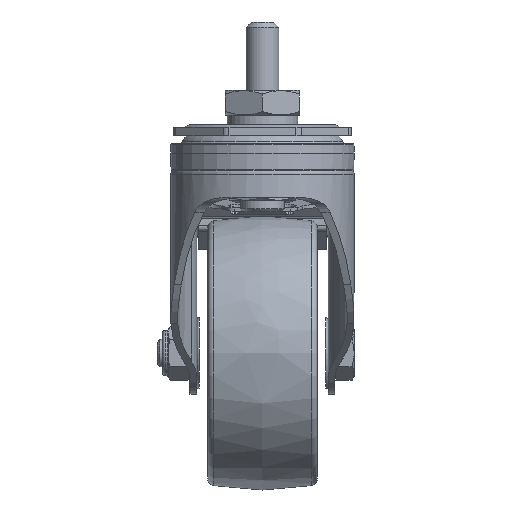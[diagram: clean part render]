
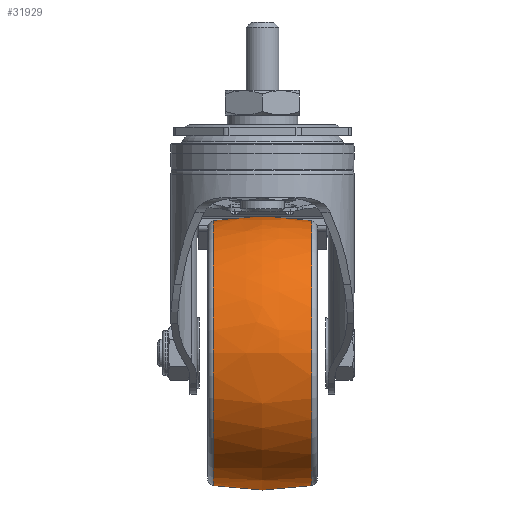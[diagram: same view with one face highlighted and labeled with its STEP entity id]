
A CAD part, left-side view. The second image highlights one B-rep face of the part: STEP entity #31929.
In plain terms, the highlighted free-form (B-spline) face has degree [2, 2] with [3, 9] control points.
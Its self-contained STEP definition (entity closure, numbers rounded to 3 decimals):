
#25=(
BOUNDED_SURFACE()
B_SPLINE_SURFACE(2,2,((#56491,#56492,#56493,#56494,#56495,#56496,#56497,
#56498,#56499),(#56500,#56501,#56502,#56503,#56504,#56505,#56506,#56507,
#56508),(#56509,#56510,#56511,#56512,#56513,#56514,#56515,#56516,#56517)),
 .UNSPECIFIED.,.F.,.T.,.F.)
B_SPLINE_SURFACE_WITH_KNOTS((3,3),(3,2,2,2,3),(-0.18,0.18),
(-3.142,-1.571,0.,1.571,3.142),
 .UNSPECIFIED.)
GEOMETRIC_REPRESENTATION_ITEM()
RATIONAL_B_SPLINE_SURFACE(((1.,0.707,1.,0.707,1.,
0.707,1.,0.707,1.),(0.984,0.696,
0.984,0.696,0.984,0.696,
0.984,0.696,0.984),(1.,0.707,
1.,0.707,1.,0.707,1.,0.707,1.)))
REPRESENTATION_ITEM('')
SURFACE()
);
#4645=FACE_OUTER_BOUND('',#6551,.T.);
#6551=EDGE_LOOP('',(#29893,#29894,#29895,#29896));
#12835=CIRCLE('',#33882,48.376);
#12837=CIRCLE('',#33884,48.376);
#12838=CIRCLE('',#33885,100.);
#15865=VERTEX_POINT('',#56488);
#15866=VERTEX_POINT('',#56518);
#20541=EDGE_CURVE('',#15865,#15865,#12835,.T.);
#20543=EDGE_CURVE('',#15866,#15866,#12837,.T.);
#20544=EDGE_CURVE('',#15866,#15865,#12838,.T.);
#29893=ORIENTED_EDGE('',*,*,#20543,.F.);
#29894=ORIENTED_EDGE('',*,*,#20544,.T.);
#29895=ORIENTED_EDGE('',*,*,#20541,.T.);
#29896=ORIENTED_EDGE('',*,*,#20544,.F.);
#31929=ADVANCED_FACE('',(#4645),#25,.F.);
#33882=AXIS2_PLACEMENT_3D('',#56489,#40582,#40583);
#33884=AXIS2_PLACEMENT_3D('',#56519,#40586,#40587);
#33885=AXIS2_PLACEMENT_3D('',#56520,#40588,#40589);
#40582=DIRECTION('center_axis',(0.,-1.,0.));
#40583=DIRECTION('ref_axis',(1.,0.,0.));
#40586=DIRECTION('center_axis',(0.,-1.,0.));
#40587=DIRECTION('ref_axis',(1.,0.,0.));
#40588=DIRECTION('center_axis',(0.,0.,
-1.));
#40589=DIRECTION('ref_axis',(-1.,0.,0.));
#56488=CARTESIAN_POINT('',(-12.376,17.949,-83.8));
#56489=CARTESIAN_POINT('Origin',(36.,17.949,-83.8));
#56491=CARTESIAN_POINT('Ctrl Pts',(-12.376,17.949,-83.8));
#56492=CARTESIAN_POINT('Ctrl Pts',(-12.376,17.949,-132.176));
#56493=CARTESIAN_POINT('Ctrl Pts',(36.,17.949,-132.176));
#56494=CARTESIAN_POINT('Ctrl Pts',(84.376,17.949,-132.176));
#56495=CARTESIAN_POINT('Ctrl Pts',(84.376,17.949,-83.8));
#56496=CARTESIAN_POINT('Ctrl Pts',(84.376,17.949,-35.424));
#56497=CARTESIAN_POINT('Ctrl Pts',(36.,17.949,-35.424));
#56498=CARTESIAN_POINT('Ctrl Pts',(-12.376,17.949,-35.424));
#56499=CARTESIAN_POINT('Ctrl Pts',(-12.376,17.949,-83.8));
#56500=CARTESIAN_POINT('Ctrl Pts',(-15.651,0.,
-83.8));
#56501=CARTESIAN_POINT('Ctrl Pts',(-15.651,0.,
-135.451));
#56502=CARTESIAN_POINT('Ctrl Pts',(36.,0.,
-135.451));
#56503=CARTESIAN_POINT('Ctrl Pts',(87.651,0.,
-135.451));
#56504=CARTESIAN_POINT('Ctrl Pts',(87.651,0.,
-83.8));
#56505=CARTESIAN_POINT('Ctrl Pts',(87.651,0.,
-32.149));
#56506=CARTESIAN_POINT('Ctrl Pts',(36.,0.,
-32.149));
#56507=CARTESIAN_POINT('Ctrl Pts',(-15.651,0.,
-32.149));
#56508=CARTESIAN_POINT('Ctrl Pts',(-15.651,0.,
-83.8));
#56509=CARTESIAN_POINT('Ctrl Pts',(-12.376,-17.949,-83.8));
#56510=CARTESIAN_POINT('Ctrl Pts',(-12.376,-17.949,
-132.176));
#56511=CARTESIAN_POINT('Ctrl Pts',(36.,-17.949,-132.176));
#56512=CARTESIAN_POINT('Ctrl Pts',(84.376,-17.949,-132.176));
#56513=CARTESIAN_POINT('Ctrl Pts',(84.376,-17.949,-83.8));
#56514=CARTESIAN_POINT('Ctrl Pts',(84.376,-17.949,-35.424));
#56515=CARTESIAN_POINT('Ctrl Pts',(36.,-17.949,-35.424));
#56516=CARTESIAN_POINT('Ctrl Pts',(-12.376,-17.949,
-35.424));
#56517=CARTESIAN_POINT('Ctrl Pts',(-12.376,-17.949,-83.8));
#56518=CARTESIAN_POINT('',(-12.376,-17.949,-83.8));
#56519=CARTESIAN_POINT('Origin',(36.,-17.949,-83.8));
#56520=CARTESIAN_POINT('Origin',(86.,0.,
-83.8));
